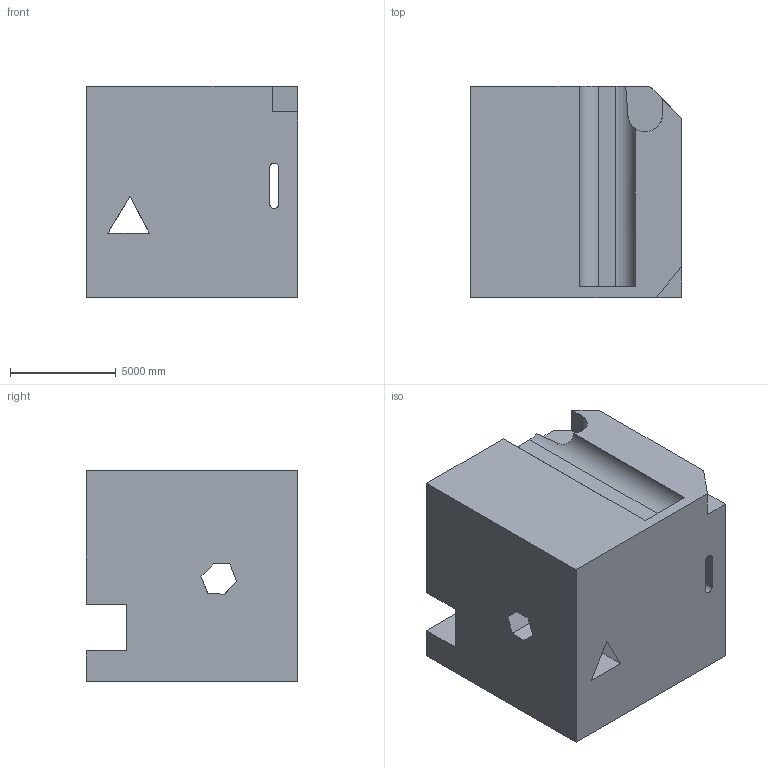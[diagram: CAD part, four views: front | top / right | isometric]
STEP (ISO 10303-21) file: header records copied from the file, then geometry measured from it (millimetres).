
FILE_DESCRIPTION (( 'STEP AP203' ), '1' );
FILE_NAME ('94.STEP', '2022-09-01T12:08:59', ( 'user' ), ( '' ), 'SwSTEP 2.0', 'SolidWorks 2021', '' );
FILE_SCHEMA (( 'CONFIG_CONTROL_DESIGN' ));
Length unit declared in the file: centimetre
Products named in the file (1): 94
Bounding box: 10000 x 10000 x 10000 mm (x, y, z)
Volume: 870589705277.8 mm3; surface area: 783469217 mm2
Topology: 1 solids, 1 shells, 54 faces, 168 edges, 112 vertices
Faces by surface type: plane 40, cylinder 14
Entity records: 2015 total; most frequent: CARTESIAN_POINT 421, ORIENTED_EDGE 336, DIRECTION 293, EDGE_CURVE 168, VECTOR 137, LINE 137, VERTEX_POINT 112, AXIS2_PLACEMENT_3D 78
